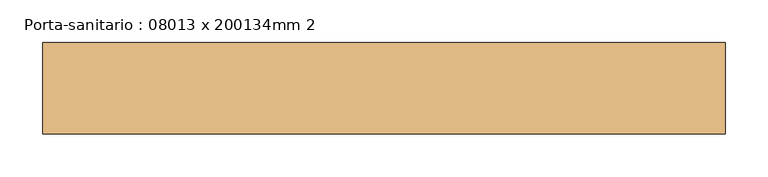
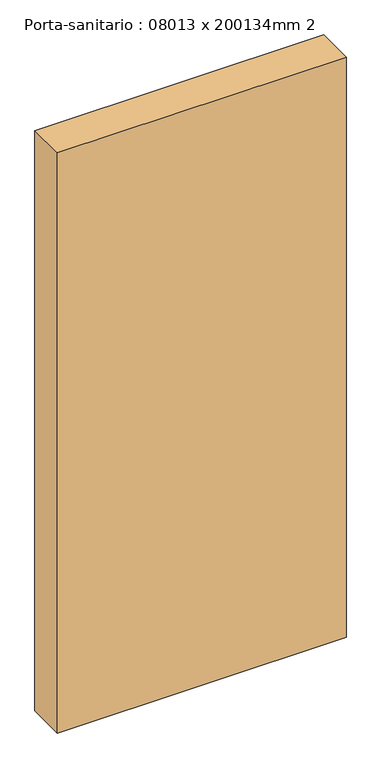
"""IFC4 building model written with IfcOpenShell, lengths in millimetres: door geometry, Porta-sanitario : 08013 x 200134mm 2."""

from ifc_helpers import new_model, si_unit, frame, origin, place, context, project, spatial, polyline, outline, extrude, source, transform, mapped, element, save


def porta_sanitario_08013_x_200134mm_2_03278394(model_context):
    return source(origin(), model_context, "Body", "SweptSolid", [
        extrude(outline(polyline([(400.05, 31.0), (400.05, -76.2), (-400.05, -76.2), (-400.05, 31.0), (400.05, 31.0)])), frame((0.0, 0.0, 300.0), z_axis=(0.0, 0.0, 1.0), x_axis=(1.0, 0.0, 0.0)), (0.0, 0.0, 1.0), 1700.0),
    ])


if __name__ == "__main__":
    model = new_model("IFC4")
    model_context = context("Model", 3, world=origin())
    ifc_project = project(units=[si_unit("LENGTHUNIT", "METRE", prefix="MILLI")], contexts=[model_context])
    site = spatial("IfcSite", under=ifc_project)
    building = spatial("IfcBuilding", under=site)
    placement = place(None, origin())
    porta_sanitario_08013_x_200134mm_2_shape = porta_sanitario_08013_x_200134mm_2_03278394(model_context)
    element("IfcDoor", 1, ObjectType="Porta-sanitario : 08013 x 200134mm 2", at=placement, inside=building, context=model_context, shape_type="MappedRepresentation", body=[
        mapped(porta_sanitario_08013_x_200134mm_2_shape, transform((0.0, 0.0, 0.0), x_axis=(1.0, 0.0, 0.0), y_axis=(0.0, 1.0, 0.0), z_axis=(0.0, 0.0, 1.0))),
    ])
    save(model, "model.ifc")
